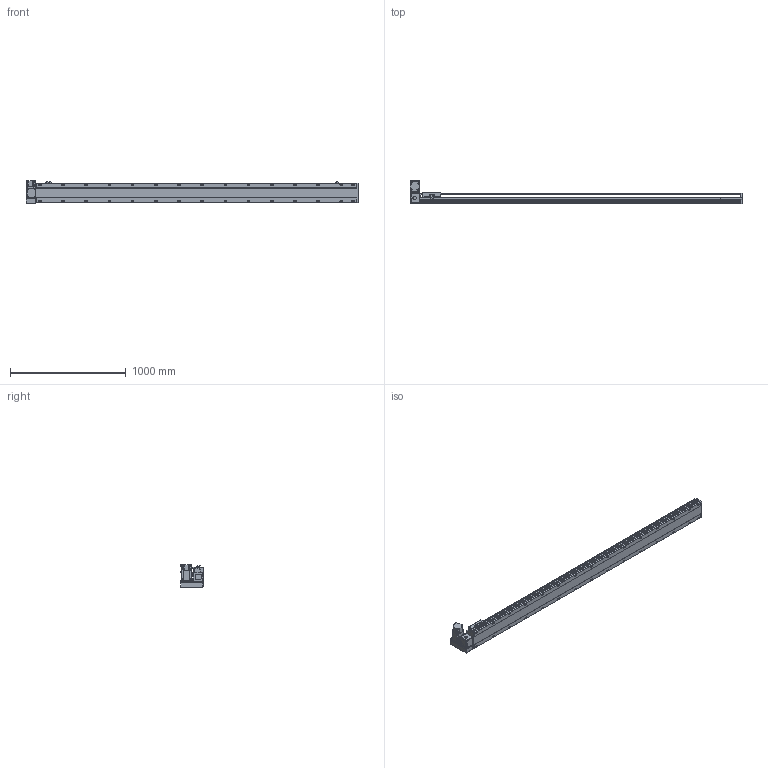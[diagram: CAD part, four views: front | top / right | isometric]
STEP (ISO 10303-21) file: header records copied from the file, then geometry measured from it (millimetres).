
FILE_DESCRIPTION(/* description */ ('STEP AP214'),/* implementation_level */ '2;1');
FILE_NAME(/* name */ 'PBS170-P40-S2500-LU-T75-C1-N(0)',/* time_stamp */ '2022-06-07T10:17:25+02:00',/* author */ ('License CC BY-ND 4.0'),/* organization */ ('CADENAS'),/* preprocessor_version */ 'ST-DEVELOPER v18.102',/* originating_system */ 'PARTsolutions',/* authorisation */ ' ');
FILE_SCHEMA (('AUTOMOTIVE_DESIGN {1 0 10303 214 3 1 1}'));
Length unit declared in the file: millimetre
Products named in the file (7): PBS170-P40-S2500-LU-T75-C1-N(0); PBS170_sensor; PBS170_plant; PBS170_sliser; T75-p1; PBS170T-LU_motors; PBS170-S2500()_body
Assembly tree (8 placements, depth 2):
  PBS170-P40-S2500-LU-T75-C1-N(0)
    PBS170_sensor  x3
    PBS170_plant
    PBS170_sliser
    T75-p1
    PBS170T-LU_motors
    PBS170-S2500()_body
Bounding box: 2863 x 206 x 197.3 mm (x, y, z)
Volume: 21677292.1 mm3; surface area: 2730093.2 mm2
Topology: 8 solids, 8 shells, 1194 faces, 3155 edges, 2056 vertices
Faces by surface type: plane 729, cylinder 395, cone 60, sphere 8, torus 2
Full cylindrical faces by diameter (mm): 3.242 x4, 4 x2, 4.4 x4, 4.5 x6, 4.917 x4, 6 x9, 6.647 x38, 7 x2, 7.5 x4, 8 x8, 8.5 x30, 10 x4, 10.5 x30, 11 x2, 30 x2, 40 x1, 70 x1
Entity records: 34324 total; most frequent: CARTESIAN_POINT 6497, DIRECTION 5790, ORIENTED_EDGE 5448, EDGE_CURVE 2724, AXIS2_PLACEMENT_3D 2047, VERTEX_POINT 1898, LINE 1696, VECTOR 1696
